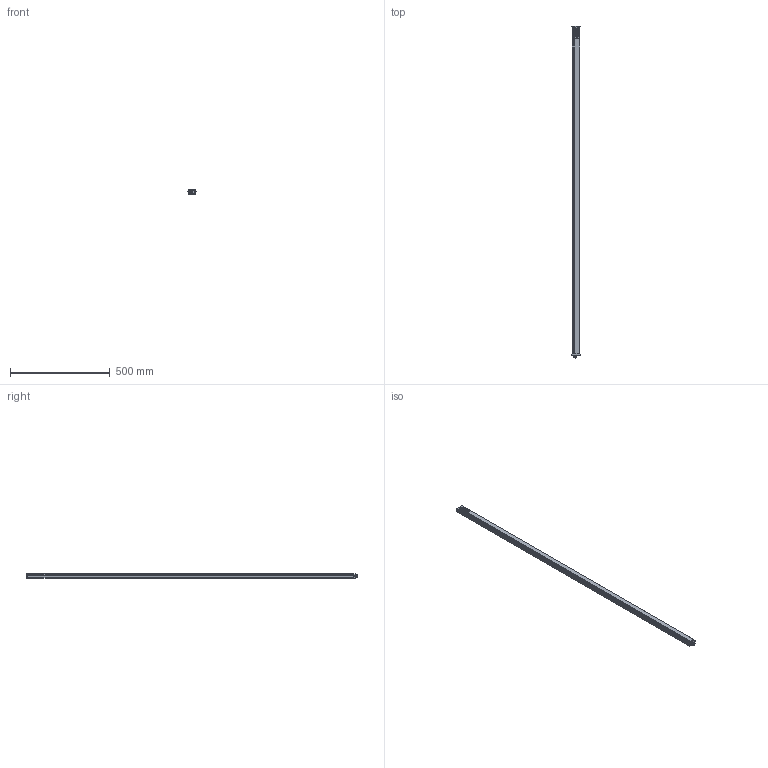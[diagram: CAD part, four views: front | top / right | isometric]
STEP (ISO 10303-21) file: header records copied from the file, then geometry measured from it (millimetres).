
FILE_DESCRIPTION(/* description */ (''),/* implementation_level */ '2;1');
FILE_NAME(/* name */ 'C:\Users\andre\SynologyDrive\Optoscan\Libreria Componenti\00 - Barriere\Polaris sorgente\Polaris_1630_TX.stp',/* time_stamp */ '2021-06-04T11:06:55+02:00',/* author */ ('andre'),/* organization */ (''),/* preprocessor_version */ 'ST-DEVELOPER v18',/* originating_system */ 'Autodesk Inventor 2020',/* authorisation */ '');
FILE_SCHEMA (('AUTOMOTIVE_DESIGN { 1 0 10303 214 3 1 1 }'));
Length unit declared in the file: millimetre
Products named in the file (1): Polaris_1630_TX
Bounding box: 40.5 x 1664.8 x 20.75 mm (x, y, z)
Volume: 327910.2 mm3; surface area: 433069.4 mm2
Topology: 1 solids, 1 shells, 738 faces, 2048 edges, 1320 vertices
Faces by surface type: plane 331, cylinder 207, bspline 115, torus 71, cone 8, sphere 6
Full cylindrical faces by diameter (mm): 1 x8, 2.459 x4, 2.5 x4, 3 x4, 3.5 x4, 5.5 x4, 8 x1, 10.5 x2, 11.75 x9, 12 x1, 12.3 x2, 14.5 x1, 16.7 x1, 17.5 x1
Entity records: 30426 total; most frequent: CARTESIAN_POINT 11243, ORIENTED_EDGE 4082, DIRECTION 3549, EDGE_CURVE 2041, VERTEX_POINT 1321, AXIS2_PLACEMENT_3D 1243, LINE 1063, VECTOR 1063
